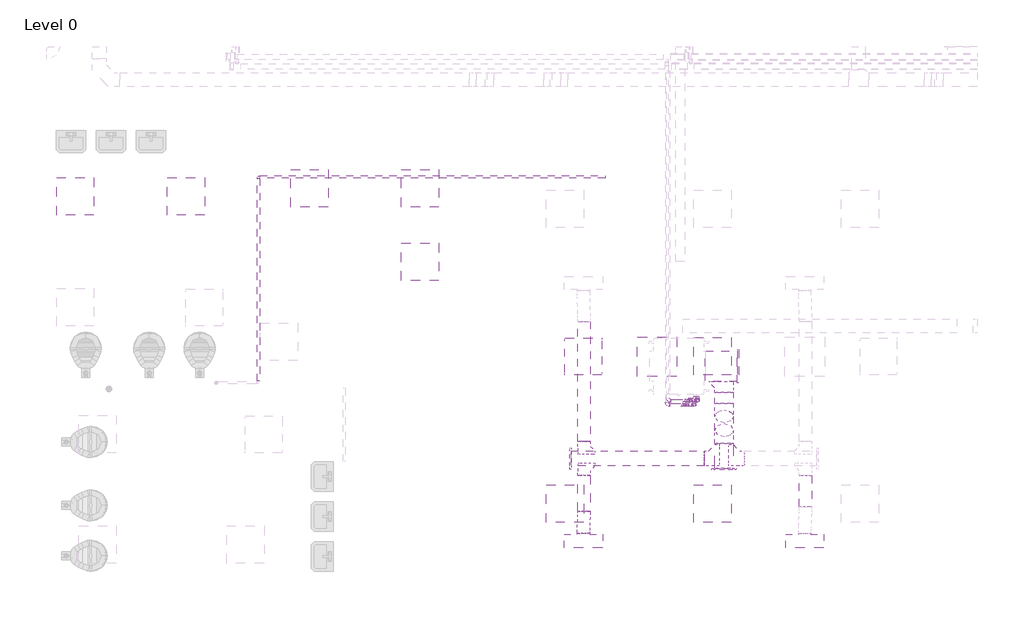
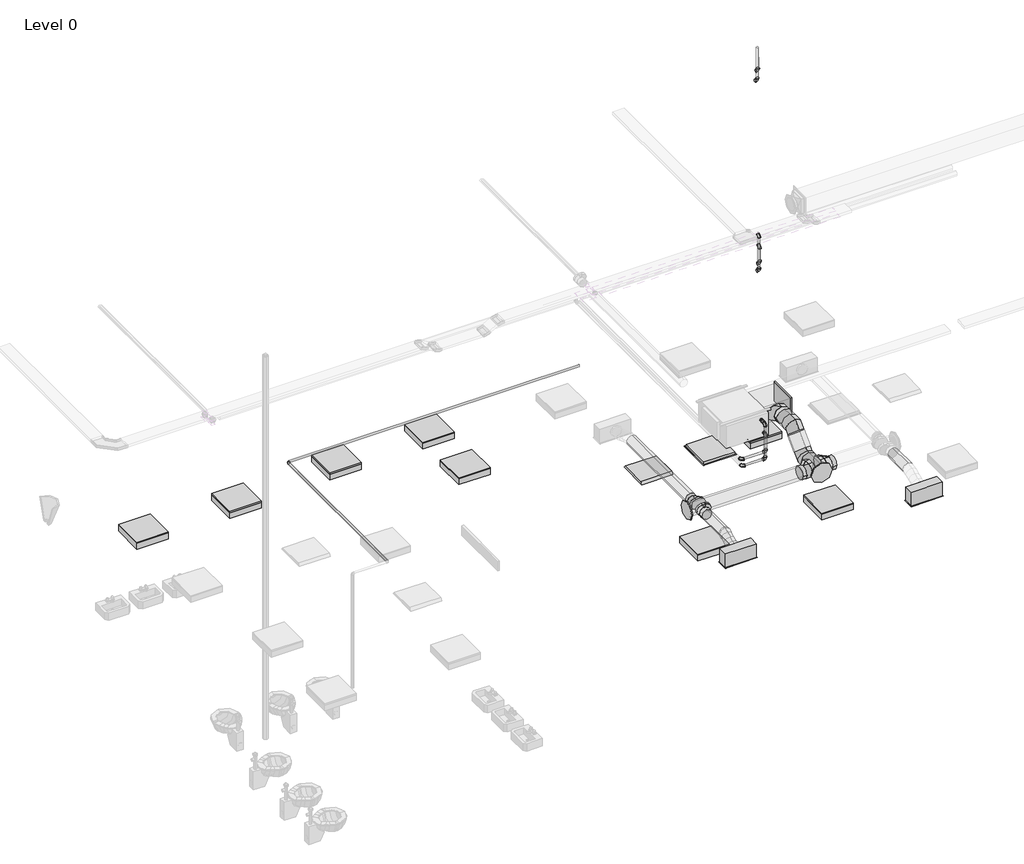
# One storey, part 2 of 34: 15 pipe fittings, 12 pipe segments, 10 duct fittings, 9 duct segments, 9 light fixtures, 3 air terminals.
"""IFC4 building model written with IfcOpenShell, lengths in millimetres."""

from ifc_helpers import new_model, si_unit, point, frame, frame_2d, origin, place, context, project, spatial, polyline, circle_curve, ellipse_curve, trimmed, segment, composite_curve, outline, extrude, transform, mapped, element, save
from ifc_brep_helpers import plane_surface, cylinder_surface, advanced_brep
from components import return_grille_rectangular_hosted_standard_7b12617c, supply_diffuser_with_plenum_linear_slot_hosted_2b730595, dw144_rectangular_blank_end_standard_8fde7d16, dw144_round_blank_end_standard_f82b0856, dw144_round_blank_end_standard_9aa061e7, dw144_round_segmented_bend_slip_joint_standard_8b80c5ae, dw144_round_shoe_branch_slip_joint1_standard_2_15a2edd8, dw144_round_shoe_branch_slip_joint1_standard_2_7ba9e4ed, dw144_round_shoe_branch_slip_joint1_standard_2_67b64720, light_fixture_b730b5ca, troffer_light_2x2_parabolic_2_x2_2_lamp_120v_6a063ff3, elbow_generic_standard_371413ad, elbow_threaded_gmi_standard_b4aa7741, socket_reducing_threaded_gmi_standard_0a4076b8

model = new_model("IFC4")

# Units and contexts
model_context = context("Model", 3, world=origin())
ifc_project = project(units=[si_unit("LENGTHUNIT", "METRE", prefix="MILLI")], contexts=[model_context])

# Site, building, storey
site = spatial("IfcSite", under=ifc_project)
building = spatial("IfcBuilding", under=site)
storey = spatial("IfcBuildingStorey", under=building, Name="Level 0", Elevation=0.0)

# Air terminals
placement = place(None, origin())
return_grille_rectangular_hosted_standard_shape = return_grille_rectangular_hosted_standard_7b12617c(model_context)
element("IfcAirTerminal", 1, ObjectType="Return Grille - Rectangular - Hosted : Standard", at=placement, inside=storey, context=model_context, shape_type="MappedRepresentation", body=[
    mapped(return_grille_rectangular_hosted_standard_shape, transform((10362.2000027, 3963.2000004, 2800.0), x_axis=(1.0, 0.0, 0.0), y_axis=(0.0, -1.0, 0.0), z_axis=(0.0, 0.0, -1.0))),
])
supply_diffuser_with_plenum_linear_slot_hosted_shape = supply_diffuser_with_plenum_linear_slot_hosted_2b730595(model_context)
element("IfcAirTerminal", 2, ObjectType="Supply Diffuser with Plenum - Linear Slot - Hosted : 24\" x 8\"-200 In Inlet  4-Slot", at=placement, inside=storey, context=model_context, shape_type="MappedRepresentation", body=[
    mapped(supply_diffuser_with_plenum_linear_slot_hosted_shape, transform((9162.2000027, 963.2000004, 2800.0), x_axis=(1.0, 0.0, 0.0), y_axis=(0.0, -1.0, 0.0), z_axis=(0.0, 0.0, -1.0))),
])
element("IfcAirTerminal", 3, ObjectType="Supply Diffuser with Plenum - Linear Slot - Hosted : 24\" x 8\"-200 In Inlet  4-Slot", at=placement, inside=storey, context=model_context, shape_type="MappedRepresentation", body=[
    mapped(supply_diffuser_with_plenum_linear_slot_hosted_shape, transform((12762.2000027, 963.2000004, 2800.0), x_axis=(1.0, 0.0, 0.0), y_axis=(0.0, -1.0, 0.0), z_axis=(0.0, 0.0, -1.0))),
])

# Duct fittings
dw144_rectangular_blank_end_standard_shape = dw144_rectangular_blank_end_standard_8fde7d16(model_context)
element("IfcDuctFitting", 4, ObjectType="DW144 Rectangular Blank End : Standard", at=placement, inside=storey, context=model_context, shape_type="MappedRepresentation", body=[
    mapped(dw144_rectangular_blank_end_standard_shape, transform((11666.2561025, 3806.0000004, 3476.3911538), x_axis=(1.0, 0.0, 0.0), y_axis=(0.0, 1.0, 0.0), z_axis=(0.0, 0.0, 1.0))),
])
dw144_round_blank_end_standard_shape = dw144_round_blank_end_standard_f82b0856(model_context)
element("IfcDuctFitting", 5, ObjectType="DW144 Round Blank End : Standard", at=placement, inside=storey, context=model_context, shape_type="MappedRepresentation", body=[
    mapped(dw144_round_blank_end_standard_shape, transform((11451.4561025, 2142.9916128, 3072.2088531), x_axis=(0.0, -1.0, 0.0), y_axis=(1.0, 0.0, 0.0), z_axis=(0.0, 0.0, 1.0))),
])
dw144_round_blank_end_standard_2_shape = dw144_round_blank_end_standard_9aa061e7(model_context)
element("IfcDuctFitting", 6, ObjectType="DW144 Round Blank End : Standard", at=placement, inside=storey, context=model_context, shape_type="MappedRepresentation", body=[
    mapped(dw144_round_blank_end_standard_2_shape, transform((8961.4561025, 2306.5018192, 3072.2088531), x_axis=(-1.0, 0.0, 0.0), y_axis=(0.0, -1.0, 0.0), z_axis=(0.0, 0.0, 1.0))),
])
dw144_round_segmented_bend_slip_joint_standard_shape = dw144_round_segmented_bend_slip_joint_standard_8b80c5ae(model_context)
element("IfcDuctFitting", 7, ObjectType="DW144 Round Segmented Bend - Slip Joint : Standard", at=placement, inside=storey, context=model_context, shape_type="MappedRepresentation", body=[
    mapped(dw144_round_segmented_bend_slip_joint_standard_shape, transform((11451.4561025, 2678.6338536, 3072.2088531), x_axis=(0.0, -0.7071067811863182, -0.7071067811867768), y_axis=(0.0, 0.7071067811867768, -0.7071067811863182), z_axis=(1.0, 0.0, 0.0))),
])
element("IfcDuctFitting", 8, ObjectType="DW144 Round Segmented Bend - Slip Joint : Standard", at=placement, inside=storey, context=model_context, shape_type="MappedRepresentation", body=[
    mapped(dw144_round_segmented_bend_slip_joint_standard_shape, transform((11451.4561025, 3076.0000004, 3469.575), x_axis=(0.0, -1.0, 0.0), y_axis=(0.0, 0.0, 1.0), z_axis=(-1.0, 0.0, 0.0))),
])
dw144_round_shoe_branch_slip_joint1_standard_2_shape = dw144_round_shoe_branch_slip_joint1_standard_2_15a2edd8(model_context)
element("IfcDuctFitting", 9, ObjectType="DW144 Round Shoe Branch - Slip Joint1 : Standard 2", at=placement, inside=storey, context=model_context, shape_type="MappedRepresentation", body=[
    mapped(dw144_round_shoe_branch_slip_joint1_standard_2_shape, transform((9173.9000022, 2181.5018192, 3072.2088531), x_axis=(0.0, -1.0, 0.0), y_axis=(-1.0, 0.0, 0.0), z_axis=(0.0, 0.0, -1.0))),
])
element("IfcDuctFitting", 10, ObjectType="DW144 Round Shoe Branch - Slip Joint1 : Standard 2", at=placement, inside=storey, context=model_context, shape_type="MappedRepresentation", body=[
    mapped(dw144_round_shoe_branch_slip_joint1_standard_2_shape, transform((9173.9000022, 2431.5018192, 3072.2088531), x_axis=(0.0, 1.0, 0.0), y_axis=(-1.0, 0.0, 0.0), z_axis=(0.0, 0.0, 1.0))),
])
dw144_round_shoe_branch_slip_joint1_standard_2_2_shape = dw144_round_shoe_branch_slip_joint1_standard_2_7ba9e4ed(model_context)
element("IfcDuctFitting", 11, ObjectType="DW144 Round Shoe Branch - Slip Joint1 : Standard 2", at=placement, inside=storey, context=model_context, shape_type="MappedRepresentation", body=[
    mapped(dw144_round_shoe_branch_slip_joint1_standard_2_2_shape, transform((11451.4561025, 3556.0000004, 3469.575), x_axis=(0.0, -1.0, 0.0), y_axis=(-1.0, 0.0, 0.0), z_axis=(0.0, 0.0, -1.0))),
])
dw144_round_shoe_branch_slip_joint1_standard_2_3_shape = dw144_round_shoe_branch_slip_joint1_standard_2_67b64720(model_context)
element("IfcDuctFitting", 12, ObjectType="DW144 Round Shoe Branch - Slip Joint1 : Standard 2", at=placement, inside=storey, context=model_context, shape_type="MappedRepresentation", body=[
    mapped(dw144_round_shoe_branch_slip_joint1_standard_2_3_shape, transform((11601.4561025, 2306.5018192, 3072.2088531), x_axis=(1.0, 0.0, 0.0), y_axis=(0.0, -1.0, 0.0), z_axis=(0.0, 0.0, -1.0))),
])
element("IfcDuctFitting", 13, ObjectType="DW144 Round Shoe Branch - Slip Joint1 : Standard 2", at=placement, inside=storey, context=model_context, shape_type="MappedRepresentation", body=[
    mapped(dw144_round_shoe_branch_slip_joint1_standard_2_3_shape, transform((11301.4561025, 2306.5018192, 3072.2088531), x_axis=(-1.0, 0.0, 0.0), y_axis=(0.0, -1.0, 0.0), z_axis=(0.0, 0.0, 1.0))),
])

# Duct segments
element("IfcDuctSegment", 14, ObjectType="DW144 Flanged Med Radius Bend / Shoe Branch", at=placement, inside=storey, context=model_context, shape_type="SweptSolid", body=[
    extrude(outline(polyline([(11146.6561025, 3556.0000004), (11146.6561025, 4056.0000004), (11666.2561025, 4056.0000004), (11666.2561025, 3556.0000004), (11146.6561025, 3556.0000004)])), frame((0.0, 0.0, 3301.3911538), z_axis=(0.0, 0.0, 1.0), x_axis=(1.0, 0.0, 0.0)), (0.0, 0.0, 1.0), 350.0),
])
element("IfcDuctSegment", 15, ObjectType="DW144 Segmented Bend / Shoe Branch", at=placement, inside=storey, context=model_context, shape_type="SweptSolid", body=[
    extrude(outline(composite_curve([segment(trimmed(circle_curve(frame_2d((3469.575, 11451.4561025)), 150.0), [point((3469.575, 11301.4561025))], [point((3319.575, 11451.4561025))], False, "CARTESIAN"), True, "CONTINUOUS"), segment(trimmed(circle_curve(frame_2d((3469.575, 11451.4561025)), 150.0), [point((3319.575, 11451.4561025))], [point((3469.575, 11601.4561025))], False, "CARTESIAN"), True, "CONTINUOUS"), segment(trimmed(circle_curve(frame_2d((3469.575, 11451.4561025)), 150.0), [point((3469.575, 11601.4561025))], [point((3619.575, 11451.4561025))], False, "CARTESIAN"), True, "CONTINUOUS"), segment(trimmed(circle_curve(frame_2d((3469.575, 11451.4561025)), 150.0), [point((3619.575, 11451.4561025))], [point((3469.575, 11301.4561025))], False, "CARTESIAN"), True, "CONTINUOUS")], self_intersect=False)), frame((0.0, 3200.2640691, 0.0), z_axis=(0.0, 1.0, 0.0), x_axis=(0.0, 0.0, 1.0)), (0.0, 0.0, 1.0), 180.7359313),
])
element("IfcDuctSegment", 16, ObjectType="DW144 Segmented Bend / Shoe Branch", at=placement, inside=storey, context=model_context, shape_type="SweptSolid", body=[
    extrude(outline(composite_curve([segment(trimmed(circle_curve(frame_2d((3072.2088531, 11451.4561025)), 150.0), [point((3072.2088531, 11301.4561025))], [point((2922.2088531, 11451.4561025))], False, "CARTESIAN"), True, "CONTINUOUS"), segment(trimmed(circle_curve(frame_2d((3072.2088531, 11451.4561025)), 150.0), [point((2922.2088531, 11451.4561025))], [point((3072.2088531, 11601.4561025))], False, "CARTESIAN"), True, "CONTINUOUS"), segment(trimmed(circle_curve(frame_2d((3072.2088531, 11451.4561025)), 150.0), [point((3072.2088531, 11601.4561025))], [point((3222.2088531, 11451.4561025))], False, "CARTESIAN"), True, "CONTINUOUS"), segment(trimmed(circle_curve(frame_2d((3072.2088531, 11451.4561025)), 150.0), [point((3222.2088531, 11451.4561025))], [point((3072.2088531, 11301.4561025))], False, "CARTESIAN"), True, "CONTINUOUS")], self_intersect=False)), frame((0.0, 2142.9916128, 0.0), z_axis=(0.0, 1.0, 0.0), x_axis=(0.0, 0.0, 1.0)), (0.0, 0.0, 1.0), 411.3781721),
])
element("IfcDuctSegment", 17, ObjectType="DW144 Segmented Bend / Shoe Branch", at=placement, inside=storey, context=model_context, shape_type="SweptSolid", body=[
    extrude(outline(composite_curve([segment(trimmed(circle_curve(frame_2d((0.0, -150.0)), 150.0), [point((-150.0, -150.0))], [point((0.0, 0.0))], False, "CARTESIAN"), True, "CONTINUOUS"), segment(trimmed(circle_curve(frame_2d((0.0, -150.0)), 150.0), [point((0.0, 0.0))], [point((150.0, -150.0))], False, "CARTESIAN"), True, "CONTINUOUS"), segment(trimmed(circle_curve(frame_2d((0.0, -150.0)), 150.0), [point((150.0, -150.0))], [point((0.0, -300.0))], False, "CARTESIAN"), True, "CONTINUOUS"), segment(trimmed(circle_curve(frame_2d((0.0, -150.0)), 150.0), [point((0.0, -300.0))], [point((-150.0, -150.0))], False, "CARTESIAN"), True, "CONTINUOUS")], self_intersect=False)), frame((11451.4561025, 2872.5678364, 3054.0108016), z_axis=(0.0, 0.7071067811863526, 0.7071067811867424), x_axis=(1.0, 0.0, 0.0)), (0.0, 0.0, 1.0), 313.4324567),
])
element("IfcDuctSegment", 18, ObjectType="DW144 Segmented Bend / Shoe Branch", at=placement, inside=storey, context=model_context, shape_type="SweptSolid", body=[
    extrude(outline(composite_curve([segment(trimmed(circle_curve(frame_2d((2306.5018192, 3072.2088531)), 125.0), [point((2431.5018192, 3072.2088531))], [point((2306.5018192, 2947.2088531))], False, "CARTESIAN"), True, "CONTINUOUS"), segment(trimmed(circle_curve(frame_2d((2306.5018192, 3072.2088531)), 125.0), [point((2306.5018192, 2947.2088531))], [point((2181.5018192, 3072.2088531))], False, "CARTESIAN"), True, "CONTINUOUS"), segment(trimmed(circle_curve(frame_2d((2306.5018192, 3072.2088531)), 125.0), [point((2181.5018192, 3072.2088531))], [point((2306.5018192, 3197.2088531))], False, "CARTESIAN"), True, "CONTINUOUS"), segment(trimmed(circle_curve(frame_2d((2306.5018192, 3072.2088531)), 125.0), [point((2306.5018192, 3197.2088531))], [point((2431.5018192, 3072.2088531))], False, "CARTESIAN"), True, "CONTINUOUS")], self_intersect=False)), frame((8961.4561025, 0.0, 0.0), z_axis=(1.0, 0.0, 0.0), x_axis=(0.0, 1.0, 0.0)), (0.0, 0.0, 1.0), 2165.0),
])
element("IfcDuctSegment", 19, ObjectType="DW144 Segmented Bend / Shoe Branch", at=placement, inside=storey, context=model_context, shape_type="SweptSolid", body=[
    extrude(outline(composite_curve([segment(trimmed(circle_curve(frame_2d((3072.2088531, 12773.9000022)), 100.0), [point((3072.2088531, 12673.9000022))], [point((2972.2088531, 12773.9000022))], False, "CARTESIAN"), True, "CONTINUOUS"), segment(trimmed(circle_curve(frame_2d((3072.2088531, 12773.9000022)), 100.0), [point((2972.2088531, 12773.9000022))], [point((3072.2088531, 12873.9000022))], False, "CARTESIAN"), True, "CONTINUOUS"), segment(trimmed(circle_curve(frame_2d((3072.2088531, 12773.9000022)), 100.0), [point((3072.2088531, 12873.9000022))], [point((3172.2088531, 12773.9000022))], False, "CARTESIAN"), True, "CONTINUOUS"), segment(trimmed(circle_curve(frame_2d((3072.2088531, 12773.9000022)), 100.0), [point((3172.2088531, 12773.9000022))], [point((3072.2088531, 12673.9000022))], False, "CARTESIAN"), True, "CONTINUOUS")], self_intersect=False)), frame((0.0, 1521.5018192, 0.0), z_axis=(0.0, 1.0, 0.0), x_axis=(0.0, 0.0, 1.0)), (0.0, 0.0, 1.0), 510.0),
])
element("IfcDuctSegment", 20, ObjectType="DW144 Segmented Bend / Shoe Branch", at=placement, inside=storey, context=model_context, shape_type="SweptSolid", body=[
    extrude(outline(composite_curve([segment(trimmed(circle_curve(frame_2d((3072.2088531, 9173.9000022)), 100.0), [point((3072.2088531, 9273.9000022))], [point((3172.2088531, 9173.9000022))], False, "CARTESIAN"), True, "CONTINUOUS"), segment(trimmed(circle_curve(frame_2d((3072.2088531, 9173.9000022)), 100.0), [point((3172.2088531, 9173.9000022))], [point((3072.2088531, 9073.9000022))], False, "CARTESIAN"), True, "CONTINUOUS"), segment(trimmed(circle_curve(frame_2d((3072.2088531, 9173.9000022)), 100.0), [point((3072.2088531, 9073.9000022))], [point((2972.2088531, 9173.9000022))], False, "CARTESIAN"), True, "CONTINUOUS"), segment(trimmed(circle_curve(frame_2d((3072.2088531, 9173.9000022)), 100.0), [point((2972.2088531, 9173.9000022))], [point((3072.2088531, 9273.9000022))], False, "CARTESIAN"), True, "CONTINUOUS")], self_intersect=False)), frame((0.0, 1441.5018192, 0.0), z_axis=(0.0, 1.0, 0.0), x_axis=(0.0, 0.0, 1.0)), (0.0, 0.0, 1.0), 590.0),
])
element("IfcDuctSegment", 21, ObjectType="DW144 Segmented Bend / Shoe Branch", at=placement, inside=storey, context=model_context, shape_type="SweptSolid", body=[
    extrude(outline(composite_curve([segment(trimmed(circle_curve(frame_2d((3072.2088531, 9173.9000022)), 100.0), [point((3072.2088531, 9273.9000022))], [point((3172.2088531, 9173.9000022))], False, "CARTESIAN"), True, "CONTINUOUS"), segment(trimmed(circle_curve(frame_2d((3072.2088531, 9173.9000022)), 100.0), [point((3172.2088531, 9173.9000022))], [point((3072.2088531, 9073.9000022))], False, "CARTESIAN"), True, "CONTINUOUS"), segment(trimmed(circle_curve(frame_2d((3072.2088531, 9173.9000022)), 100.0), [point((3072.2088531, 9073.9000022))], [point((2972.2088531, 9173.9000022))], False, "CARTESIAN"), True, "CONTINUOUS"), segment(trimmed(circle_curve(frame_2d((3072.2088531, 9173.9000022)), 100.0), [point((2972.2088531, 9173.9000022))], [point((3072.2088531, 9273.9000022))], False, "CARTESIAN"), True, "CONTINUOUS")], self_intersect=False)), frame((0.0, 2581.5018192, 0.0), z_axis=(0.0, 1.0, 0.0), x_axis=(0.0, 0.0, 1.0)), (0.0, 0.0, 1.0), 1950.0),
])
element("IfcDuctSegment", 22, ObjectType="Flex - Round", at=placement, inside=storey, context=model_context, shape_type="AdvancedBrep", body=[
    advanced_brep(
    [(9273.9000022, 1441.5018192, 3072.2088531), (9173.9000022, 1441.5018192, 2972.2088531), (9073.9000022, 1441.5018192, 3072.2088531), (9173.9000022, 1441.5018192, 3172.2088531), (9273.9000022, 1420.0995917, 3072.2088531), (9173.9000022, 1434.401614, 2972.2088531), (9073.9000022, 1422.6837186, 3072.2088531), (9173.9000022, 1408.3816962, 3172.2088531), (9262.2000027, 1090.2000004, 2954.4), (9162.2000027, 1090.2000004, 3054.4), (9062.2000027, 1090.2000004, 2954.4), (9162.2000027, 1090.2000004, 2854.4), (9272.0161428, 1348.4444846, 3053.2400219), (9172.6330752, 1386.2123534, 2959.4519962), (9072.1276118, 1355.2684822, 3054.3624177), (9171.5106794, 1317.5006134, 3148.1504435), (9267.9561574, 1261.6239384, 3012.3594887), (9168.9949403, 1308.4128474, 2922.8191318), (9068.1438475, 1270.0778812, 3014.2493644), (9167.1050646, 1223.2889723, 3103.7897213), (9263.9723931, 1176.4333374, 2972.2464354), (9164.5893255, 1214.2012062, 2878.4584097), (9064.0838621, 1183.257335, 2973.3688312), (9163.4669297, 1145.4894662, 3067.1568569), (9262.2000027, 1109.0181011, 2954.4), (9162.2000027, 1123.3201234, 2854.4), (9062.2000027, 1111.602228, 2954.4), (9162.2000027, 1097.3002057, 3054.4)],
    [
        (0, 1, circle_curve(frame((9173.9000022, 1441.5018192, 3072.2088531), z_axis=(0.0, 1.0, 0.0), x_axis=(1.0, 0.0, 0.0)), 100.0)),
        (1, 2, circle_curve(frame((9173.9000022, 1441.5018192, 3072.2088531), z_axis=(0.0, 1.0, 0.0), x_axis=(1.0, 0.0, 0.0)), 100.0)),
        (2, 3, circle_curve(frame((9173.9000022, 1441.5018192, 3072.2088531), z_axis=(0.0, 1.0, 0.0), x_axis=(1.0, 0.0, 0.0)), 100.0)),
        (3, 0, circle_curve(frame((9173.9000022, 1441.5018192, 3072.2088531), z_axis=(0.0, 1.0, 0.0), x_axis=(1.0, 0.0, 0.0)), 100.0)),
        (0, 4),
        (4, 5, ellipse_curve(frame((9173.9000022, 1421.3916551, 3072.2088531), z_axis=(0.01281160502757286, 0.9915616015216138, 0.1290017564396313), x_axis=(-0.09799329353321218, 0.12963637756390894, -0.9867075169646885)), 100.8510211, 100.0)),
        (5, 1),
        (5, 6, ellipse_curve(frame((9173.9000022, 1421.3916551, 3072.2088531), z_axis=(0.01281160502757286, 0.9915616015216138, 0.1290017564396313), x_axis=(-0.09799329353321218, 0.12963637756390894, -0.9867075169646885)), 100.8510211, 100.0)),
        (6, 2),
        (6, 7, ellipse_curve(frame((9173.9000022, 1421.3916551, 3072.2088531), z_axis=(0.01281160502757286, 0.9915616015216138, 0.1290017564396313), x_axis=(-0.09799329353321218, 0.12963637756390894, -0.9867075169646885)), 100.8510211, 100.0)),
        (7, 3),
        (7, 4, ellipse_curve(frame((9173.9000022, 1421.3916551, 3072.2088531), z_axis=(0.01281160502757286, 0.9915616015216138, 0.1290017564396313), x_axis=(-0.09799329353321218, 0.12963637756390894, -0.9867075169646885)), 100.8510211, 100.0)),
        (8, 9, circle_curve(frame((9162.2000027, 1090.2000004, 2954.4), z_axis=(0.0, -1.0, 0.0), x_axis=(1.0, 0.0, 0.0)), 100.0)),
        (9, 10, circle_curve(frame((9162.2000027, 1090.2000004, 2954.4), z_axis=(0.0, -1.0, 0.0), x_axis=(1.0, 0.0, 0.0)), 100.0)),
        (10, 11, circle_curve(frame((9162.2000027, 1090.2000004, 2954.4), z_axis=(0.0, -1.0, 0.0), x_axis=(1.0, 0.0, 0.0)), 100.0)),
        (11, 8, circle_curve(frame((9162.2000027, 1090.2000004, 2954.4), z_axis=(0.0, -1.0, 0.0), x_axis=(1.0, 0.0, 0.0)), 100.0)),
        (4, 12),
        (12, 13, ellipse_curve(frame((9172.0718773, 1351.8564834, 3053.8012198), z_axis=(0.03397887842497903, 0.9390352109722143, 0.342137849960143), x_axis=(-0.09280225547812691, 0.34382098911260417, -0.9344382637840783)), 100.4152859, 100.0)),
        (13, 5),
        (13, 14, ellipse_curve(frame((9172.0718773, 1351.8564834, 3053.8012198), z_axis=(0.03397887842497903, 0.9390352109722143, 0.342137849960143), x_axis=(-0.09280225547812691, 0.34382098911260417, -0.9344382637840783)), 100.4152859, 100.0)),
        (14, 6),
        (14, 15, ellipse_curve(frame((9172.0718773, 1351.8564834, 3053.8012198), z_axis=(0.03397887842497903, 0.9390352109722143, 0.342137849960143), x_axis=(-0.09280225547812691, 0.34382098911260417, -0.9344382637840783)), 100.4152859, 100.0)),
        (15, 7),
        (15, 12, ellipse_curve(frame((9172.0718773, 1351.8564834, 3053.8012198), z_axis=(0.03397887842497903, 0.9390352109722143, 0.342137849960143), x_axis=(-0.09280225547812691, 0.34382098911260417, -0.9344382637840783)), 100.4152859, 100.0)),
        (12, 16),
        (16, 17, circle_curve(frame((9168.0500024, 1265.8509098, 3013.3044266), z_axis=(0.04226971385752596, 0.9039144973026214, 0.42561937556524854), x_axis=(0.9990615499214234, -0.04226971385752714, -0.009449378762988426)), 100.0)),
        (17, 13),
        (17, 18, circle_curve(frame((9168.0500024, 1265.8509098, 3013.3044266), z_axis=(0.04226971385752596, 0.9039144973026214, 0.42561937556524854), x_axis=(0.9990615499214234, -0.04226971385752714, -0.009449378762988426)), 100.0)),
        (18, 14),
        (18, 19, circle_curve(frame((9168.0500024, 1265.8509098, 3013.3044266), z_axis=(0.04226971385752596, 0.9039144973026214, 0.42561937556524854), x_axis=(0.9990615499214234, -0.04226971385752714, -0.009449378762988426)), 100.0)),
        (19, 15),
        (19, 16, circle_curve(frame((9168.0500024, 1265.8509098, 3013.3044266), z_axis=(0.04226971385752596, 0.9039144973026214, 0.42561937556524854), x_axis=(0.9990615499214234, -0.04226971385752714, -0.009449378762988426)), 100.0)),
        (16, 20),
        (20, 21, ellipse_curve(frame((9164.0281276, 1179.8453362, 2972.8076333), z_axis=(0.033978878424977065, 0.9390352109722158, 0.34213784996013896), x_axis=(0.09280225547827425, -0.3438209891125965, 0.9344382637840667)), 100.4152859, 100.0)),
        (21, 17),
        (21, 22, ellipse_curve(frame((9164.0281276, 1179.8453362, 2972.8076333), z_axis=(0.033978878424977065, 0.9390352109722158, 0.34213784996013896), x_axis=(0.09280225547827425, -0.3438209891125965, 0.9344382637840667)), 100.4152859, 100.0)),
        (22, 18),
        (22, 23, ellipse_curve(frame((9164.0281276, 1179.8453362, 2972.8076333), z_axis=(0.033978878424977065, 0.9390352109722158, 0.34213784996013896), x_axis=(0.09280225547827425, -0.3438209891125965, 0.9344382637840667)), 100.4152859, 100.0)),
        (23, 19),
        (23, 20, ellipse_curve(frame((9164.0281276, 1179.8453362, 2972.8076333), z_axis=(0.033978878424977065, 0.9390352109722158, 0.34213784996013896), x_axis=(0.09280225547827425, -0.3438209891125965, 0.9344382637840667)), 100.4152859, 100.0)),
        (20, 24),
        (24, 25, ellipse_curve(frame((9162.2000027, 1110.3101645, 2954.4), z_axis=(0.012811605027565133, 0.9915616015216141, 0.12900175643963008), x_axis=(0.09799329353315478, -0.12963637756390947, 0.9867075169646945)), 100.8510211, 100.0)),
        (25, 21),
        (25, 26, ellipse_curve(frame((9162.2000027, 1110.3101645, 2954.4), z_axis=(0.012811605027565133, 0.9915616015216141, 0.12900175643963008), x_axis=(0.09799329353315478, -0.12963637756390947, 0.9867075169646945)), 100.8510211, 100.0)),
        (26, 22),
        (26, 27, ellipse_curve(frame((9162.2000027, 1110.3101645, 2954.4), z_axis=(0.012811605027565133, 0.9915616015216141, 0.12900175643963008), x_axis=(0.09799329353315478, -0.12963637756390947, 0.9867075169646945)), 100.8510211, 100.0)),
        (27, 23),
        (27, 24, ellipse_curve(frame((9162.2000027, 1110.3101645, 2954.4), z_axis=(0.012811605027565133, 0.9915616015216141, 0.12900175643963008), x_axis=(0.09799329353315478, -0.12963637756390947, 0.9867075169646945)), 100.8510211, 100.0)),
        (24, 8),
        (11, 25),
        (10, 26),
        (9, 27),
    ],
    [
        plane_surface(frame((9073.9000022, 1441.5018192, 3072.2088531), z_axis=(0.0, 1.0, 0.0), x_axis=(0.0, 0.0, -1.0))),
        cylinder_surface(frame((9173.9000022, 1441.5018192, 3072.2088531), z_axis=(0.0, 1.0, 0.0), x_axis=(1.0, 0.0, 0.0)), 100.0),
        plane_surface(frame((9062.2000027, 1090.2000004, 2954.4), z_axis=(0.0, -1.0, 0.0), x_axis=(0.0, 0.0, -1.0))),
        cylinder_surface(frame((9173.9000022, 1421.3916551, 3072.2088531), z_axis=(0.025406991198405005, 0.966388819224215, 0.25582637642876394), x_axis=(0.9996717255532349, -0.025406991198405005, -0.0033054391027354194)), 100.0),
        cylinder_surface(frame((9172.0718773, 1351.8564834, 3053.8012198), z_axis=(0.04226971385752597, 0.9039144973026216, 0.42561937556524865), x_axis=(0.9990615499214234, -0.04226971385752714, -0.009449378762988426)), 100.0),
        cylinder_surface(frame((9168.0500024, 1265.8509098, 3013.3044266), z_axis=(0.04226971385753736, 0.9039144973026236, 0.42561937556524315), x_axis=(0.9990615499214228, -0.0422697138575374, -0.009449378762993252)), 100.0),
        cylinder_surface(frame((9164.0281276, 1179.8453362, 2972.8076333), z_axis=(0.025406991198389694, 0.9663888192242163, 0.2558263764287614), x_axis=(0.9996717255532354, -0.025406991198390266, -0.0033054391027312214)), 100.0),
        cylinder_surface(frame((9162.2000027, 1110.3101645, 2954.4), z_axis=(0.0, 1.0, 0.0), x_axis=(1.0, 0.0, 0.0)), 100.0),
    ],
    [
        (0, [[1, 2, 3, 4]]),
        (1, [[-1, 5, 6, 7]]),
        (1, [[-2, -7, 8, 9]]),
        (1, [[-3, -9, 10, 11]]),
        (1, [[-4, -11, 12, -5]]),
        (2, [[13, 14, 15, 16]]),
        (3, [[-6, 17, 18, 19]]),
        (3, [[-8, -19, 20, 21]]),
        (3, [[-10, -21, 22, 23]]),
        (3, [[-12, -23, 24, -17]]),
        (4, [[-18, 25, 26, 27]]),
        (4, [[-20, -27, 28, 29]]),
        (4, [[-22, -29, 30, 31]]),
        (4, [[-24, -31, 32, -25]]),
        (5, [[-26, 33, 34, 35]]),
        (5, [[-28, -35, 36, 37]]),
        (5, [[-30, -37, 38, 39]]),
        (5, [[-32, -39, 40, -33]]),
        (6, [[-34, 41, 42, 43]]),
        (6, [[-36, -43, 44, 45]]),
        (6, [[-38, -45, 46, 47]]),
        (6, [[-40, -47, 48, -41]]),
        (7, [[-42, 49, -16, 50]]),
        (7, [[-44, -50, -15, 51]]),
        (7, [[-46, -51, -14, 52]]),
        (7, [[-48, -52, -13, -49]]),
    ],
),
])

# Light fixtures
light_fixture_shape = light_fixture_b730b5ca(model_context)
element("IfcLightFixture", 23, ObjectType="ELEKTRA EM Recessed Lighting Fixture : 24\" x 24\" - 230", at=placement, inside=storey, context=model_context, shape_type="MappedRepresentation", body=[
    mapped(light_fixture_shape, transform((8862.2000027, 3663.2000004, 2800.0), x_axis=(1.0, 0.0, 0.0), y_axis=(0.0, -1.0, 0.0), z_axis=(0.0, 0.0, -1.0))),
])
troffer_light_2x2_parabolic_2_x2_2_lamp_120v_shape = troffer_light_2x2_parabolic_2_x2_2_lamp_120v_6a063ff3(model_context)
element("IfcLightFixture", 24, ObjectType="Troffer Light - 2x2 Parabolic : 2'x2'(2 Lamp) - 120V", at=placement, inside=storey, context=model_context, shape_type="MappedRepresentation", body=[
    mapped(troffer_light_2x2_parabolic_2_x2_2_lamp_120v_shape, transform((8862.2000027, 1263.2000004, 2800.0), x_axis=(1.0, 0.0, 0.0), y_axis=(0.0, -1.0, 0.0), z_axis=(0.0, 0.0, -1.0))),
])
element("IfcLightFixture", 25, ObjectType="Troffer Light - 2x2 Parabolic : 2'x2'(2 Lamp) - 120V", at=placement, inside=storey, context=model_context, shape_type="MappedRepresentation", body=[
    mapped(troffer_light_2x2_parabolic_2_x2_2_lamp_120v_shape, transform((11262.2000027, 1263.2000004, 2800.0), x_axis=(1.0, 0.0, 0.0), y_axis=(0.0, -1.0, 0.0), z_axis=(0.0, 0.0, -1.0))),
])
element("IfcLightFixture", 26, ObjectType="Troffer Light - 2x2 Parabolic : 2'x2'(2 Lamp) - 120V", at=placement, inside=storey, context=model_context, shape_type="MappedRepresentation", body=[
    mapped(troffer_light_2x2_parabolic_2_x2_2_lamp_120v_shape, transform((11262.2000027, 3663.2000004, 2800.0), x_axis=(1.0, 0.0, 0.0), y_axis=(0.0, -1.0, 0.0), z_axis=(0.0, 0.0, -1.0))),
])
element("IfcLightFixture", 27, ObjectType="Troffer Light - 2x2 Parabolic : 2'x2'(2 Lamp) - 120V", at=placement, inside=storey, context=model_context, shape_type="MappedRepresentation", body=[
    mapped(troffer_light_2x2_parabolic_2_x2_2_lamp_120v_shape, transform((6508.9500027, 6400.6000005, 2800.0), x_axis=(1.0, 0.0, 0.0), y_axis=(0.0, -1.0, 0.0), z_axis=(0.0, 0.0, -1.0))),
])
element("IfcLightFixture", 28, ObjectType="Troffer Light - 2x2 Parabolic : 2'x2'(2 Lamp) - 120V", at=placement, inside=storey, context=model_context, shape_type="MappedRepresentation", body=[
    mapped(troffer_light_2x2_parabolic_2_x2_2_lamp_120v_shape, transform((4708.9500027, 6400.6000005, 2800.0), x_axis=(1.0, 0.0, 0.0), y_axis=(0.0, -1.0, 0.0), z_axis=(0.0, 0.0, -1.0))),
])
element("IfcLightFixture", 29, ObjectType="Troffer Light - 2x2 Parabolic : 2'x2'(2 Lamp) - 120V", at=placement, inside=storey, context=model_context, shape_type="MappedRepresentation", body=[
    mapped(troffer_light_2x2_parabolic_2_x2_2_lamp_120v_shape, transform((6508.9500027, 5200.6000005, 2800.0), x_axis=(1.0, 0.0, 0.0), y_axis=(0.0, -1.0, 0.0), z_axis=(0.0, 0.0, -1.0))),
])
element("IfcLightFixture", 30, ObjectType="Troffer Light - 2x2 Parabolic : 2'x2'(2 Lamp) - 120V", at=placement, inside=storey, context=model_context, shape_type="MappedRepresentation", body=[
    mapped(troffer_light_2x2_parabolic_2_x2_2_lamp_120v_shape, transform((899.8500022, 6263.6000007, 2800.0), x_axis=(1.0, 0.0, 0.0), y_axis=(0.0, -1.0, 0.0), z_axis=(0.0, 0.0, -1.0))),
])
element("IfcLightFixture", 31, ObjectType="Troffer Light - 2x2 Parabolic : 2'x2'(2 Lamp) - 120V", at=placement, inside=storey, context=model_context, shape_type="MappedRepresentation", body=[
    mapped(troffer_light_2x2_parabolic_2_x2_2_lamp_120v_shape, transform((2699.8500022, 6263.6000007, 2800.0), x_axis=(1.0, 0.0, 0.0), y_axis=(0.0, -1.0, 0.0), z_axis=(0.0, 0.0, -1.0))),
])

# Pipe fittings
elbow_generic_standard_shape = elbow_generic_standard_371413ad(model_context)
element("IfcPipeFitting", 32, ObjectType="Elbow - Generic : Standard", at=placement, inside=storey, context=model_context, shape_type="MappedRepresentation", body=[
    mapped(elbow_generic_standard_shape, transform((3876.5875007, 6890.4000005, 3048.0), x_axis=(-1.0, 0.0, 0.0), y_axis=(0.0, -1.0, 0.0), z_axis=(0.0, 0.0, 1.0))),
])
elbow_threaded_gmi_standard_shape = elbow_threaded_gmi_standard_b4aa7741(model_context)
element("IfcPipeFitting", 33, ObjectType="Elbow - Threaded - GMI : Standard", at=placement, inside=storey, context=model_context, shape_type="MappedRepresentation", body=[
    mapped(elbow_threaded_gmi_standard_shape, transform((10815.2441119, 3177.232951, 10693.9343179), x_axis=(0.0, 0.0, -1.0), y_axis=(-1.0, 0.0, 0.0), z_axis=(0.0, 1.0, 0.0))),
])
element("IfcPipeFitting", 34, ObjectType="Elbow - Threaded - GMI : Standard", at=placement, inside=storey, context=model_context, shape_type="MappedRepresentation", body=[
    mapped(elbow_threaded_gmi_standard_shape, transform((10866.0441119, 3246.7427522, 10834.6193977), x_axis=(0.0, 0.0, -1.0), y_axis=(-1.0, 0.0, 0.0), z_axis=(0.0, 1.0, 0.0))),
])
element("IfcPipeFitting", 35, ObjectType="Elbow - Threaded - GMI : Standard", at=placement, inside=storey, context=model_context, shape_type="MappedRepresentation", body=[
    mapped(elbow_threaded_gmi_standard_shape, transform((10848.8561025, 3177.232951, 6793.9343179), x_axis=(0.0, 0.0, -1.0), y_axis=(-1.0, 0.0, 0.0), z_axis=(0.0, 1.0, 0.0))),
])
element("IfcPipeFitting", 36, ObjectType="Elbow - Threaded - GMI : Standard", at=placement, inside=storey, context=model_context, shape_type="MappedRepresentation", body=[
    mapped(elbow_threaded_gmi_standard_shape, transform((10899.6561025, 3246.7427522, 6880.0), x_axis=(0.0, 0.0, -1.0), y_axis=(-1.0, 0.0, 0.0), z_axis=(0.0, 1.0, 0.0))),
])
element("IfcPipeFitting", 37, ObjectType="Elbow - Threaded - GMI : Standard", at=placement, inside=storey, context=model_context, shape_type="MappedRepresentation", body=[
    mapped(elbow_threaded_gmi_standard_shape, transform((10848.8561025, 3177.232951, 7503.3911538), x_axis=(0.0, 0.0, 1.0), y_axis=(0.0, 1.0, 0.0), z_axis=(-1.0, 0.0, 0.0))),
])
element("IfcPipeFitting", 38, ObjectType="Elbow - Threaded - GMI : Standard", at=placement, inside=storey, context=model_context, shape_type="MappedRepresentation", body=[
    mapped(elbow_threaded_gmi_standard_shape, transform((10899.6561025, 3246.7427522, 7223.9911538), x_axis=(0.0, 0.0, 1.0), y_axis=(0.0, 1.0, 0.0), z_axis=(-1.0, 0.0, 0.0))),
])
element("IfcPipeFitting", 39, ObjectType="Elbow - Threaded - GMI : Standard", at=placement, inside=storey, context=model_context, shape_type="MappedRepresentation", body=[
    mapped(elbow_threaded_gmi_standard_shape, transform((10968.8561025, 3177.232951, 2893.9343179), x_axis=(0.0, 0.0, -1.0), y_axis=(-1.0, 0.0, 0.0), z_axis=(0.0, 1.0, 0.0))),
])
element("IfcPipeFitting", 40, ObjectType="Elbow - Threaded - GMI : Standard", at=placement, inside=storey, context=model_context, shape_type="MappedRepresentation", body=[
    mapped(elbow_threaded_gmi_standard_shape, transform((10521.3774685, 3177.232951, 2893.9343179), x_axis=(0.0, -1.0, 0.0), y_axis=(1.0, 0.0, 0.0), z_axis=(0.0, 0.0, 1.0))),
])
element("IfcPipeFitting", 41, ObjectType="Elbow - Threaded - GMI : Standard", at=placement, inside=storey, context=model_context, shape_type="MappedRepresentation", body=[
    mapped(elbow_threaded_gmi_standard_shape, transform((11019.6561025, 3246.7427522, 2980.0), x_axis=(0.0, 0.0, -1.0), y_axis=(-1.0, 0.0, 0.0), z_axis=(0.0, 1.0, 0.0))),
])
element("IfcPipeFitting", 42, ObjectType="Elbow - Threaded - GMI : Standard", at=placement, inside=storey, context=model_context, shape_type="MappedRepresentation", body=[
    mapped(elbow_threaded_gmi_standard_shape, transform((10542.0529581, 3246.7427522, 2980.0), x_axis=(0.0, -1.0, 0.0), y_axis=(1.0, 0.0, 0.0), z_axis=(0.0, 0.0, 1.0))),
])
element("IfcPipeFitting", 43, ObjectType="Elbow - Threaded - GMI : Standard", at=placement, inside=storey, context=model_context, shape_type="MappedRepresentation", body=[
    mapped(elbow_threaded_gmi_standard_shape, transform((11019.6561025, 3246.7427522, 3323.9911538), x_axis=(0.0, 0.0, 1.0), y_axis=(0.0, 1.0, 0.0), z_axis=(-1.0, 0.0, 0.0))),
])
element("IfcPipeFitting", 44, ObjectType="Elbow - Threaded - GMI : Standard", at=placement, inside=storey, context=model_context, shape_type="MappedRepresentation", body=[
    mapped(elbow_threaded_gmi_standard_shape, transform((10968.8561025, 3177.232951, 3603.3911538), x_axis=(0.0, 0.0, 1.0), y_axis=(0.0, 1.0, 0.0), z_axis=(-1.0, 0.0, 0.0))),
])
socket_reducing_threaded_gmi_standard_shape = socket_reducing_threaded_gmi_standard_0a4076b8(model_context)
element("IfcPipeFitting", 45, ObjectType="Socket Reducing - Threaded - GMI : Standard", at=placement, inside=storey, context=model_context, shape_type="MappedRepresentation", body=[
    mapped(socket_reducing_threaded_gmi_standard_shape, transform((11019.6561025, 3323.4000004, 3323.9911538), x_axis=(0.0, -1.0, 0.0), y_axis=(1.0, 0.0, 0.0), z_axis=(0.0, 0.0, 1.0))),
])
element("IfcPipeFitting", 46, ObjectType="Socket Reducing - Threaded - GMI : Standard", at=placement, inside=storey, context=model_context, shape_type="MappedRepresentation", body=[
    mapped(socket_reducing_threaded_gmi_standard_shape, transform((10968.8561025, 3323.4000004, 3603.3911538), x_axis=(0.0, -1.0, 0.0), y_axis=(1.0, 0.0, 0.0), z_axis=(0.0, 0.0, 1.0))),
])

# Pipe segments
element("IfcPipeSegment", 47, ObjectType="Carbon Steel - Threaded", at=placement, inside=storey, context=model_context, shape_type="SweptSolid", body=[
    extrude(outline(composite_curve([segment(trimmed(circle_curve(frame_2d((10815.2441119, 3177.232951)), 21.45), [point((10836.6941119, 3177.232951))], [point((10815.2441119, 3155.782951))], False, "CARTESIAN"), True, "CONTINUOUS"), segment(trimmed(circle_curve(frame_2d((10815.2441119, 3177.232951)), 21.45), [point((10815.2441119, 3155.782951))], [point((10793.7941119, 3177.232951))], False, "CARTESIAN"), True, "CONTINUOUS"), segment(trimmed(circle_curve(frame_2d((10815.2441119, 3177.232951)), 21.45), [point((10793.7941119, 3177.232951))], [point((10815.2441119, 3198.682951))], False, "CARTESIAN"), True, "CONTINUOUS"), segment(trimmed(circle_curve(frame_2d((10815.2441119, 3177.232951)), 21.45), [point((10815.2441119, 3198.682951))], [point((10836.6941119, 3177.232951))], False, "CARTESIAN"), True, "CONTINUOUS")], self_intersect=False)), frame((0.0, 0.0, 10738.9343179), z_axis=(0.0, 0.0, 1.0), x_axis=(1.0, 0.0, 0.0)), (0.0, 0.0, 1.0), 619.4568359),
])
element("IfcPipeSegment", 48, ObjectType="Carbon Steel - Threaded", at=placement, inside=storey, context=model_context, shape_type="SweptSolid", body=[
    extrude(outline(composite_curve([segment(trimmed(circle_curve(frame_2d((10866.0441119, 3246.7427522)), 21.45), [point((10887.4941119, 3246.7427522))], [point((10866.0441119, 3225.2927522))], False, "CARTESIAN"), True, "CONTINUOUS"), segment(trimmed(circle_curve(frame_2d((10866.0441119, 3246.7427522)), 21.45), [point((10866.0441119, 3225.2927522))], [point((10844.5941119, 3246.7427522))], False, "CARTESIAN"), True, "CONTINUOUS"), segment(trimmed(circle_curve(frame_2d((10866.0441119, 3246.7427522)), 21.45), [point((10844.5941119, 3246.7427522))], [point((10866.0441119, 3268.1927522))], False, "CARTESIAN"), True, "CONTINUOUS"), segment(trimmed(circle_curve(frame_2d((10866.0441119, 3246.7427522)), 21.45), [point((10866.0441119, 3268.1927522))], [point((10887.4941119, 3246.7427522))], False, "CARTESIAN"), True, "CONTINUOUS")], self_intersect=False)), frame((0.0, 0.0, 10879.6193977), z_axis=(0.0, 0.0, 1.0), x_axis=(1.0, 0.0, 0.0)), (0.0, 0.0, 1.0), 199.3717561),
])
element("IfcPipeSegment", 49, ObjectType="Carbon Steel - Threaded", at=placement, inside=storey, context=model_context, shape_type="SweptSolid", body=[
    extrude(outline(composite_curve([segment(trimmed(circle_curve(frame_2d((10848.8561025, 3177.232951)), 21.45), [point((10870.3061025, 3177.232951))], [point((10848.8561025, 3155.782951))], False, "CARTESIAN"), True, "CONTINUOUS"), segment(trimmed(circle_curve(frame_2d((10848.8561025, 3177.232951)), 21.45), [point((10848.8561025, 3155.782951))], [point((10827.4061025, 3177.232951))], False, "CARTESIAN"), True, "CONTINUOUS"), segment(trimmed(circle_curve(frame_2d((10848.8561025, 3177.232951)), 21.45), [point((10827.4061025, 3177.232951))], [point((10848.8561025, 3198.682951))], False, "CARTESIAN"), True, "CONTINUOUS"), segment(trimmed(circle_curve(frame_2d((10848.8561025, 3177.232951)), 21.45), [point((10848.8561025, 3198.682951))], [point((10870.3061025, 3177.232951))], False, "CARTESIAN"), True, "CONTINUOUS")], self_intersect=False)), frame((0.0, 0.0, 6838.9343179), z_axis=(0.0, 0.0, 1.0), x_axis=(1.0, 0.0, 0.0)), (0.0, 0.0, 1.0), 619.4568359),
])
element("IfcPipeSegment", 50, ObjectType="Carbon Steel - Threaded", at=placement, inside=storey, context=model_context, shape_type="SweptSolid", body=[
    extrude(outline(composite_curve([segment(trimmed(circle_curve(frame_2d((10899.6561025, 3246.7427522)), 21.45), [point((10921.1061025, 3246.7427522))], [point((10899.6561025, 3225.2927522))], False, "CARTESIAN"), True, "CONTINUOUS"), segment(trimmed(circle_curve(frame_2d((10899.6561025, 3246.7427522)), 21.45), [point((10899.6561025, 3225.2927522))], [point((10878.2061025, 3246.7427522))], False, "CARTESIAN"), True, "CONTINUOUS"), segment(trimmed(circle_curve(frame_2d((10899.6561025, 3246.7427522)), 21.45), [point((10878.2061025, 3246.7427522))], [point((10899.6561025, 3268.1927522))], False, "CARTESIAN"), True, "CONTINUOUS"), segment(trimmed(circle_curve(frame_2d((10899.6561025, 3246.7427522)), 21.45), [point((10899.6561025, 3268.1927522))], [point((10921.1061025, 3246.7427522))], False, "CARTESIAN"), True, "CONTINUOUS")], self_intersect=False)), frame((0.0, 0.0, 6925.0), z_axis=(0.0, 0.0, 1.0), x_axis=(1.0, 0.0, 0.0)), (0.0, 0.0, 1.0), 253.9911538),
])
element("IfcPipeSegment", 51, ObjectType="Carbon Steel - Threaded", at=placement, inside=storey, context=model_context, shape_type="SweptSolid", body=[
    extrude(outline(composite_curve([segment(trimmed(circle_curve(frame_2d((3323.9911538, 11019.6561025)), 21.45), [point((3323.9911538, 10998.2061025))], [point((3302.5411538, 11019.6561025))], False, "CARTESIAN"), True, "CONTINUOUS"), segment(trimmed(circle_curve(frame_2d((3323.9911538, 11019.6561025)), 21.45), [point((3302.5411538, 11019.6561025))], [point((3323.9911538, 11041.1061025))], False, "CARTESIAN"), True, "CONTINUOUS"), segment(trimmed(circle_curve(frame_2d((3323.9911538, 11019.6561025)), 21.45), [point((3323.9911538, 11041.1061025))], [point((3345.4411538, 11019.6561025))], False, "CARTESIAN"), True, "CONTINUOUS"), segment(trimmed(circle_curve(frame_2d((3323.9911538, 11019.6561025)), 21.45), [point((3345.4411538, 11019.6561025))], [point((3323.9911538, 10998.2061025))], False, "CARTESIAN"), True, "CONTINUOUS")], self_intersect=False)), frame((0.0, 3271.4000004, 0.0), z_axis=(0.0, 1.0, 0.0), x_axis=(0.0, 0.0, 1.0)), (0.0, 0.0, 1.0), 20.3427518),
])
element("IfcPipeSegment", 52, ObjectType="Carbon Steel - Threaded", at=placement, inside=storey, context=model_context, shape_type="SweptSolid", body=[
    extrude(outline(composite_curve([segment(trimmed(circle_curve(frame_2d((0.0, 21.45)), 21.45), [point((0.0, 42.9))], [point((21.45, 21.45))], False, "CARTESIAN"), True, "CONTINUOUS"), segment(trimmed(circle_curve(frame_2d((0.0, 21.45)), 21.45), [point((21.45, 21.45))], [point((0.0, 0.0))], False, "CARTESIAN"), True, "CONTINUOUS"), segment(trimmed(circle_curve(frame_2d((0.0, 21.45)), 21.45), [point((0.0, 0.0))], [point((-21.45, 21.45))], False, "CARTESIAN"), True, "CONTINUOUS"), segment(trimmed(circle_curve(frame_2d((0.0, 21.45)), 21.45), [point((-21.45, 21.45))], [point((0.0, 42.9))], False, "CARTESIAN"), True, "CONTINUOUS")], self_intersect=False)), frame((10947.4061025, 3222.232951, 3603.3911538), z_axis=(1.9436076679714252e-12, 1.0, 0.0), x_axis=(0.0, 0.0, 1.0)), (0.0, 0.0, 1.0), 49.1670495),
])
element("IfcPipeSegment", 53, ObjectType="Carbon Steel - Threaded", at=placement, inside=storey, context=model_context, shape_type="SweptSolid", body=[
    extrude(outline(composite_curve([segment(trimmed(circle_curve(frame_2d((10968.8561025, 3177.232951)), 21.45), [point((10990.3061025, 3177.232951))], [point((10968.8561025, 3155.782951))], False, "CARTESIAN"), True, "CONTINUOUS"), segment(trimmed(circle_curve(frame_2d((10968.8561025, 3177.232951)), 21.45), [point((10968.8561025, 3155.782951))], [point((10947.4061025, 3177.232951))], False, "CARTESIAN"), True, "CONTINUOUS"), segment(trimmed(circle_curve(frame_2d((10968.8561025, 3177.232951)), 21.45), [point((10947.4061025, 3177.232951))], [point((10968.8561025, 3198.682951))], False, "CARTESIAN"), True, "CONTINUOUS"), segment(trimmed(circle_curve(frame_2d((10968.8561025, 3177.232951)), 21.45), [point((10968.8561025, 3198.682951))], [point((10990.3061025, 3177.232951))], False, "CARTESIAN"), True, "CONTINUOUS")], self_intersect=False)), frame((0.0, 0.0, 2938.9343179), z_axis=(0.0, 0.0, 1.0), x_axis=(1.0, 0.0, 0.0)), (0.0, 0.0, 1.0), 619.4568359),
])
element("IfcPipeSegment", 54, ObjectType="Carbon Steel - Threaded", at=placement, inside=storey, context=model_context, shape_type="SweptSolid", body=[
    extrude(outline(composite_curve([segment(trimmed(circle_curve(frame_2d((11019.6561025, 3246.7427522)), 21.45), [point((11041.1061025, 3246.7427522))], [point((11019.6561025, 3225.2927522))], False, "CARTESIAN"), True, "CONTINUOUS"), segment(trimmed(circle_curve(frame_2d((11019.6561025, 3246.7427522)), 21.45), [point((11019.6561025, 3225.2927522))], [point((10998.2061025, 3246.7427522))], False, "CARTESIAN"), True, "CONTINUOUS"), segment(trimmed(circle_curve(frame_2d((11019.6561025, 3246.7427522)), 21.45), [point((10998.2061025, 3246.7427522))], [point((11019.6561025, 3268.1927522))], False, "CARTESIAN"), True, "CONTINUOUS"), segment(trimmed(circle_curve(frame_2d((11019.6561025, 3246.7427522)), 21.45), [point((11019.6561025, 3268.1927522))], [point((11041.1061025, 3246.7427522))], False, "CARTESIAN"), True, "CONTINUOUS")], self_intersect=False)), frame((0.0, 0.0, 3025.0), z_axis=(0.0, 0.0, 1.0), x_axis=(1.0, 0.0, 0.0)), (0.0, 0.0, 1.0), 253.9911538),
])
element("IfcPipeSegment", 55, ObjectType="Carbon Steel - Threaded", at=placement, inside=storey, context=model_context, shape_type="SweptSolid", body=[
    extrude(outline(composite_curve([segment(trimmed(circle_curve(frame_2d((3177.232951, 2893.9343179)), 21.45), [point((3198.682951, 2893.9343179))], [point((3177.232951, 2872.4843179))], False, "CARTESIAN"), True, "CONTINUOUS"), segment(trimmed(circle_curve(frame_2d((3177.232951, 2893.9343179)), 21.45), [point((3177.232951, 2872.4843179))], [point((3155.782951, 2893.9343179))], False, "CARTESIAN"), True, "CONTINUOUS"), segment(trimmed(circle_curve(frame_2d((3177.232951, 2893.9343179)), 21.45), [point((3155.782951, 2893.9343179))], [point((3177.232951, 2915.3843179))], False, "CARTESIAN"), True, "CONTINUOUS"), segment(trimmed(circle_curve(frame_2d((3177.232951, 2893.9343179)), 21.45), [point((3177.232951, 2915.3843179))], [point((3198.682951, 2893.9343179))], False, "CARTESIAN"), True, "CONTINUOUS")], self_intersect=False)), frame((10566.3774685, 0.0, 0.0), z_axis=(1.0, 0.0, 0.0), x_axis=(0.0, 1.0, 0.0)), (0.0, 0.0, 1.0), 357.478634),
])
element("IfcPipeSegment", 56, ObjectType="Carbon Steel - Threaded", at=placement, inside=storey, context=model_context, shape_type="SweptSolid", body=[
    extrude(outline(composite_curve([segment(trimmed(circle_curve(frame_2d((3246.7427522, 2980.0)), 21.45), [point((3268.1927522, 2980.0))], [point((3246.7427522, 2958.55))], False, "CARTESIAN"), True, "CONTINUOUS"), segment(trimmed(circle_curve(frame_2d((3246.7427522, 2980.0)), 21.45), [point((3246.7427522, 2958.55))], [point((3225.2927522, 2980.0))], False, "CARTESIAN"), True, "CONTINUOUS"), segment(trimmed(circle_curve(frame_2d((3246.7427522, 2980.0)), 21.45), [point((3225.2927522, 2980.0))], [point((3246.7427522, 3001.45))], False, "CARTESIAN"), True, "CONTINUOUS"), segment(trimmed(circle_curve(frame_2d((3246.7427522, 2980.0)), 21.45), [point((3246.7427522, 3001.45))], [point((3268.1927522, 2980.0))], False, "CARTESIAN"), True, "CONTINUOUS")], self_intersect=False)), frame((10587.0529581, 0.0, 0.0), z_axis=(1.0, 0.0, 0.0), x_axis=(0.0, 1.0, 0.0)), (0.0, 0.0, 1.0), 387.6031444),
])
element("IfcPipeSegment", 57, ObjectType="Standard", at=placement, inside=storey, context=model_context, shape_type="SweptSolid", body=[
    extrude(outline(composite_curve([segment(trimmed(circle_curve(frame_2d((3048.0, 3876.5875007)), 20.6375), [point((3048.0, 3897.2250007))], [point((3068.6375, 3876.5875007))], False, "CARTESIAN"), True, "CONTINUOUS"), segment(trimmed(circle_curve(frame_2d((3048.0, 3876.5875007)), 20.6375), [point((3068.6375, 3876.5875007))], [point((3048.0, 3855.9500007))], False, "CARTESIAN"), True, "CONTINUOUS"), segment(trimmed(circle_curve(frame_2d((3048.0, 3876.5875007)), 20.6375), [point((3048.0, 3855.9500007))], [point((3027.3625, 3876.5875007))], False, "CARTESIAN"), True, "CONTINUOUS"), segment(trimmed(circle_curve(frame_2d((3048.0, 3876.5875007)), 20.6375), [point((3027.3625, 3876.5875007))], [point((3048.0, 3897.2250007))], False, "CARTESIAN"), True, "CONTINUOUS")], self_intersect=False)), frame((0.0, 3564.5875005, 0.0), z_axis=(0.0, 1.0, 0.0), x_axis=(0.0, 0.0, 1.0)), (0.0, 0.0, 1.0), 3298.825),
])
element("IfcPipeSegment", 58, ObjectType="Standard", at=placement, inside=storey, context=model_context, shape_type="SweptSolid", body=[
    extrude(outline(composite_curve([segment(trimmed(circle_curve(frame_2d((6890.4000005, 3048.0)), 20.6375), [point((6869.7625005, 3048.0))], [point((6890.4000005, 3068.6375))], False, "CARTESIAN"), True, "CONTINUOUS"), segment(trimmed(circle_curve(frame_2d((6890.4000005, 3048.0)), 20.6375), [point((6890.4000005, 3068.6375))], [point((6911.0375005, 3048.0))], False, "CARTESIAN"), True, "CONTINUOUS"), segment(trimmed(circle_curve(frame_2d((6890.4000005, 3048.0)), 20.6375), [point((6911.0375005, 3048.0))], [point((6890.4000005, 3027.3625))], False, "CARTESIAN"), True, "CONTINUOUS"), segment(trimmed(circle_curve(frame_2d((6890.4000005, 3048.0)), 20.6375), [point((6890.4000005, 3027.3625))], [point((6869.7625005, 3048.0))], False, "CARTESIAN"), True, "CONTINUOUS")], self_intersect=False)), frame((3903.5750007, 0.0, 0.0), z_axis=(1.0, 0.0, 0.0), x_axis=(0.0, 1.0, 0.0)), (0.0, 0.0, 1.0), 5611.8125),
])

save(model, "model.ifc")
